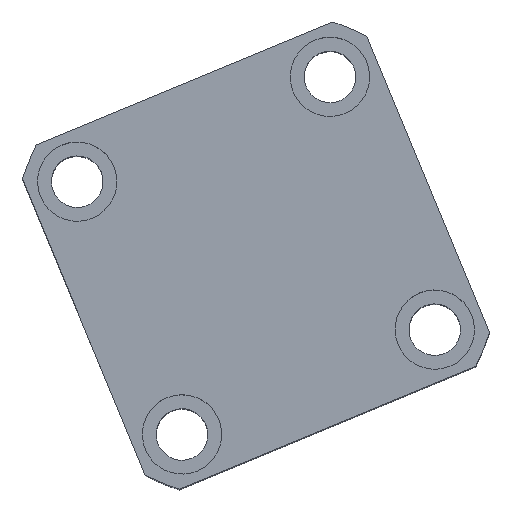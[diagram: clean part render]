
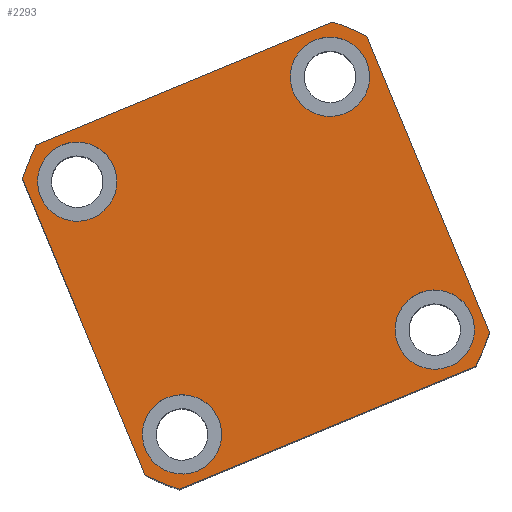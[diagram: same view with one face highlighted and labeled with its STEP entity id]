
A CAD part, top view. The second image highlights one B-rep face of the part: STEP entity #2293.
In plain terms, the highlighted planar face has unit normal (0, 0, 1) as drawn and (0, 0, -1) by its records, which use the part's own axes.
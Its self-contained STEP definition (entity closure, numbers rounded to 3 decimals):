
#113 = CARTESIAN_POINT ( 'NONE',  ( 44.5, 34.5, 0. ) ) ;
#301 = LINE ( 'NONE', #16303, #4902 ) ;
#447 = CARTESIAN_POINT ( 'NONE',  ( -34.5, -34.5, 0. ) ) ;
#539 = DIRECTION ( 'NONE',  ( 0., 0., -1. ) ) ;
#902 = EDGE_CURVE ( 'NONE', #2542, #20532, #1407, .T. ) ;
#1189 = VERTEX_POINT ( 'NONE', #8281 ) ;
#1271 = CARTESIAN_POINT ( 'NONE',  ( -47., 47., 0. ) ) ;
#1336 = ORIENTED_EDGE ( 'NONE', *, *, #17917, .F. ) ;
#1407 = LINE ( 'NONE', #6854, #19219 ) ;
#1649 = CARTESIAN_POINT ( 'NONE',  ( -44.5, 34.5, 0. ) ) ;
#1686 = CIRCLE ( 'NONE', #2950, 62. ) ;
#1765 = DIRECTION ( 'NONE',  ( 0., 0., 1. ) ) ;
#1785 = CARTESIAN_POINT ( 'NONE',  ( 34.5, -34.5, 0. ) ) ;
#1861 = CARTESIAN_POINT ( 'NONE',  ( -47., 40.435, 0. ) ) ;
#2091 = AXIS2_PLACEMENT_3D ( 'NONE', #4759, #16811, #6486 ) ;
#2200 = VERTEX_POINT ( 'NONE', #21178 ) ;
#2204 = DIRECTION ( 'NONE',  ( -1., 0., 0. ) ) ;
#2293 = ADVANCED_FACE ( 'NONE', ( #4619, #8648, #18939, #13765, #4081 ), #6043, .F. ) ;
#2350 = CARTESIAN_POINT ( 'NONE',  ( 47., 40.435, 0. ) ) ;
#2542 = VERTEX_POINT ( 'NONE', #18503 ) ;
#2950 = AXIS2_PLACEMENT_3D ( 'NONE', #12080, #1765, #13802 ) ;
#3089 = AXIS2_PLACEMENT_3D ( 'NONE', #10858, #539, #12616 ) ;
#3226 = ORIENTED_EDGE ( 'NONE', *, *, #10527, .F. ) ;
#3428 = AXIS2_PLACEMENT_3D ( 'NONE', #1785, #13826, #3520 ) ;
#3520 = DIRECTION ( 'NONE',  ( -1., 0., 0. ) ) ;
#3810 = CARTESIAN_POINT ( 'NONE',  ( -44.5, -34.5, 0. ) ) ;
#4081 = FACE_OUTER_BOUND ( 'NONE', #15465, .T. ) ;
#4295 = VERTEX_POINT ( 'NONE', #3810 ) ;
#4326 = DIRECTION ( 'NONE',  ( 0., 0., -1. ) ) ;
#4575 = AXIS2_PLACEMENT_3D ( 'NONE', #17536, #7207, #19291 ) ;
#4619 = FACE_BOUND ( 'NONE', #20928, .T. ) ;
#4759 = CARTESIAN_POINT ( 'NONE',  ( 0., 0., 0. ) ) ;
#4814 = CARTESIAN_POINT ( 'NONE',  ( 34.5, -34.5, 0. ) ) ;
#4902 = VECTOR ( 'NONE', #11081, 1000. ) ;
#5196 = CARTESIAN_POINT ( 'NONE',  ( 44.5, -34.5, 0. ) ) ;
#5413 = VERTEX_POINT ( 'NONE', #9264 ) ;
#5560 = VERTEX_POINT ( 'NONE', #7928 ) ;
#5652 = DIRECTION ( 'NONE',  ( 0., 0., -1. ) ) ;
#5748 = CARTESIAN_POINT ( 'NONE',  ( 47., 47., 0. ) ) ;
#6043 = PLANE ( 'NONE',  #12599 ) ;
#6225 = EDGE_CURVE ( 'NONE', #16362, #20482, #8786, .T. ) ;
#6435 = CARTESIAN_POINT ( 'NONE',  ( 47., -40.435, 0. ) ) ;
#6472 = DIRECTION ( 'NONE',  ( 1., 0., 0. ) ) ;
#6486 = DIRECTION ( 'NONE',  ( 1., 0., 0. ) ) ;
#6522 = VECTOR ( 'NONE', #17828, 1000. ) ;
#6545 = DIRECTION ( 'NONE',  ( -1., 0., 0. ) ) ;
#6854 = CARTESIAN_POINT ( 'NONE',  ( -47., -47., 0. ) ) ;
#7064 = CIRCLE ( 'NONE', #3089, 10. ) ;
#7207 = DIRECTION ( 'NONE',  ( 0., 0., -1. ) ) ;
#7235 = VERTEX_POINT ( 'NONE', #1861 ) ;
#7256 = ORIENTED_EDGE ( 'NONE', *, *, #14863, .F. ) ;
#7477 = CIRCLE ( 'NONE', #18386, 10. ) ;
#7641 = EDGE_CURVE ( 'NONE', #5413, #4295, #10153, .T. ) ;
#7668 = VECTOR ( 'NONE', #13245, 1000. ) ;
#7703 = EDGE_CURVE ( 'NONE', #4295, #5413, #9616, .T. ) ;
#7726 = CARTESIAN_POINT ( 'NONE',  ( 24.5, -34.5, 0. ) ) ;
#7786 = CARTESIAN_POINT ( 'NONE',  ( 0., 0., 0. ) ) ;
#7928 = CARTESIAN_POINT ( 'NONE',  ( -24.5, 34.5, 0. ) ) ;
#8228 = EDGE_CURVE ( 'NONE', #18407, #17919, #7477, .T. ) ;
#8281 = CARTESIAN_POINT ( 'NONE',  ( 24.5, 34.5, 0. ) ) ;
#8414 = VERTEX_POINT ( 'NONE', #1649 ) ;
#8492 = DIRECTION ( 'NONE',  ( 0., 0., 1. ) ) ;
#8648 = FACE_BOUND ( 'NONE', #12205, .T. ) ;
#8705 = DIRECTION ( 'NONE',  ( 0., 0., -1. ) ) ;
#8786 = CIRCLE ( 'NONE', #18523, 62. ) ;
#8859 = ORIENTED_EDGE ( 'NONE', *, *, #20852, .F. ) ;
#8863 = VERTEX_POINT ( 'NONE', #16104 ) ;
#9264 = CARTESIAN_POINT ( 'NONE',  ( -24.5, -34.5, 0. ) ) ;
#9493 = DIRECTION ( 'NONE',  ( 1., 0., 0. ) ) ;
#9502 = DIRECTION ( 'NONE',  ( 1., 0., 0. ) ) ;
#9616 = CIRCLE ( 'NONE', #13718, 10. ) ;
#10153 = CIRCLE ( 'NONE', #11414, 10. ) ;
#10212 = AXIS2_PLACEMENT_3D ( 'NONE', #14625, #4326, #16372 ) ;
#10527 = EDGE_CURVE ( 'NONE', #1189, #10547, #10713, .T. ) ;
#10547 = VERTEX_POINT ( 'NONE', #113 ) ;
#10713 = CIRCLE ( 'NONE', #21239, 10. ) ;
#10732 = ORIENTED_EDGE ( 'NONE', *, *, #13093, .F. ) ;
#10858 = CARTESIAN_POINT ( 'NONE',  ( 34.5, 34.5, 0. ) ) ;
#11081 = DIRECTION ( 'NONE',  ( -1., 0., 0. ) ) ;
#11097 = LINE ( 'NONE', #5748, #6522 ) ;
#11414 = AXIS2_PLACEMENT_3D ( 'NONE', #447, #12520, #2204 ) ;
#11647 = EDGE_CURVE ( 'NONE', #2200, #7235, #14253, .T. ) ;
#12080 = CARTESIAN_POINT ( 'NONE',  ( 0., 0., 0. ) ) ;
#12205 = EDGE_LOOP ( 'NONE', ( #15875, #20509 ) ) ;
#12435 = CARTESIAN_POINT ( 'NONE',  ( 40.435, -47., 0. ) ) ;
#12520 = DIRECTION ( 'NONE',  ( 0., 0., -1. ) ) ;
#12599 = AXIS2_PLACEMENT_3D ( 'NONE', #14549, #19882, #9502 ) ;
#12616 = DIRECTION ( 'NONE',  ( -1., 0., 0. ) ) ;
#12921 = ORIENTED_EDGE ( 'NONE', *, *, #17725, .F. ) ;
#13093 = EDGE_CURVE ( 'NONE', #8414, #5560, #19951, .T. ) ;
#13245 = DIRECTION ( 'NONE',  ( 0., -1., 0. ) ) ;
#13718 = AXIS2_PLACEMENT_3D ( 'NONE', #15976, #5652, #17732 ) ;
#13765 = FACE_BOUND ( 'NONE', #15474, .T. ) ;
#13802 = DIRECTION ( 'NONE',  ( 1., 0., 0. ) ) ;
#13826 = DIRECTION ( 'NONE',  ( 0., 0., -1. ) ) ;
#13986 = ORIENTED_EDGE ( 'NONE', *, *, #19479, .F. ) ;
#14253 = CIRCLE ( 'NONE', #15693, 62. ) ;
#14529 = ORIENTED_EDGE ( 'NONE', *, *, #11647, .F. ) ;
#14549 = CARTESIAN_POINT ( 'NONE',  ( 0., 0., 0. ) ) ;
#14616 = EDGE_CURVE ( 'NONE', #7235, #8863, #16812, .T. ) ;
#14625 = CARTESIAN_POINT ( 'NONE',  ( -34.5, 34.5, 0. ) ) ;
#14863 = EDGE_CURVE ( 'NONE', #17919, #18407, #18733, .T. ) ;
#15033 = EDGE_CURVE ( 'NONE', #5560, #8414, #18194, .T. ) ;
#15465 = EDGE_LOOP ( 'NONE', ( #17506, #22113, #8859, #18072, #13986, #18616, #14529, #1336 ) ) ;
#15474 = EDGE_LOOP ( 'NONE', ( #3226, #12921 ) ) ;
#15693 = AXIS2_PLACEMENT_3D ( 'NONE', #7786, #19876, #9493 ) ;
#15875 = ORIENTED_EDGE ( 'NONE', *, *, #7703, .F. ) ;
#15976 = CARTESIAN_POINT ( 'NONE',  ( -34.5, -34.5, 0. ) ) ;
#16104 = CARTESIAN_POINT ( 'NONE',  ( -47., -40.435, 0. ) ) ;
#16303 = CARTESIAN_POINT ( 'NONE',  ( -47., 47., 0. ) ) ;
#16362 = VERTEX_POINT ( 'NONE', #2350 ) ;
#16372 = DIRECTION ( 'NONE',  ( -1., 0., 0. ) ) ;
#16426 = ORIENTED_EDGE ( 'NONE', *, *, #8228, .F. ) ;
#16811 = DIRECTION ( 'NONE',  ( 0., 0., 1. ) ) ;
#16812 = LINE ( 'NONE', #1271, #7668 ) ;
#16866 = DIRECTION ( 'NONE',  ( 0., 0., -1. ) ) ;
#17380 = CIRCLE ( 'NONE', #2091, 62. ) ;
#17506 = ORIENTED_EDGE ( 'NONE', *, *, #6225, .F. ) ;
#17536 = CARTESIAN_POINT ( 'NONE',  ( -34.5, 34.5, 0. ) ) ;
#17725 = EDGE_CURVE ( 'NONE', #10547, #1189, #7064, .T. ) ;
#17732 = DIRECTION ( 'NONE',  ( -1., 0., 0. ) ) ;
#17745 = EDGE_CURVE ( 'NONE', #19334, #16362, #11097, .T. ) ;
#17828 = DIRECTION ( 'NONE',  ( 0., 1., 0. ) ) ;
#17917 = EDGE_CURVE ( 'NONE', #20482, #2200, #301, .T. ) ;
#17919 = VERTEX_POINT ( 'NONE', #7726 ) ;
#18072 = ORIENTED_EDGE ( 'NONE', *, *, #902, .F. ) ;
#18194 = CIRCLE ( 'NONE', #4575, 10. ) ;
#18386 = AXIS2_PLACEMENT_3D ( 'NONE', #4814, #16866, #6545 ) ;
#18407 = VERTEX_POINT ( 'NONE', #5196 ) ;
#18503 = CARTESIAN_POINT ( 'NONE',  ( -40.435, -47., 0. ) ) ;
#18523 = AXIS2_PLACEMENT_3D ( 'NONE', #18842, #8492, #20586 ) ;
#18616 = ORIENTED_EDGE ( 'NONE', *, *, #14616, .F. ) ;
#18733 = CIRCLE ( 'NONE', #3428, 10. ) ;
#18842 = CARTESIAN_POINT ( 'NONE',  ( 0., 0., 0. ) ) ;
#18939 = FACE_BOUND ( 'NONE', #19012, .T. ) ;
#19012 = EDGE_LOOP ( 'NONE', ( #7256, #16426 ) ) ;
#19066 = CARTESIAN_POINT ( 'NONE',  ( 34.5, 34.5, 0. ) ) ;
#19219 = VECTOR ( 'NONE', #6472, 1000. ) ;
#19291 = DIRECTION ( 'NONE',  ( -1., 0., 0. ) ) ;
#19320 = CARTESIAN_POINT ( 'NONE',  ( 40.435, 47., 0. ) ) ;
#19334 = VERTEX_POINT ( 'NONE', #6435 ) ;
#19479 = EDGE_CURVE ( 'NONE', #8863, #2542, #1686, .T. ) ;
#19876 = DIRECTION ( 'NONE',  ( 0., 0., 1. ) ) ;
#19882 = DIRECTION ( 'NONE',  ( 0., 0., 1. ) ) ;
#19951 = CIRCLE ( 'NONE', #10212, 10. ) ;
#19972 = ORIENTED_EDGE ( 'NONE', *, *, #15033, .F. ) ;
#20482 = VERTEX_POINT ( 'NONE', #19320 ) ;
#20509 = ORIENTED_EDGE ( 'NONE', *, *, #7641, .F. ) ;
#20532 = VERTEX_POINT ( 'NONE', #12435 ) ;
#20586 = DIRECTION ( 'NONE',  ( 1., 0., 0. ) ) ;
#20804 = DIRECTION ( 'NONE',  ( -1., 0., 0. ) ) ;
#20852 = EDGE_CURVE ( 'NONE', #20532, #19334, #17380, .T. ) ;
#20928 = EDGE_LOOP ( 'NONE', ( #10732, #19972 ) ) ;
#21178 = CARTESIAN_POINT ( 'NONE',  ( -40.435, 47., 0. ) ) ;
#21239 = AXIS2_PLACEMENT_3D ( 'NONE', #19066, #8705, #20804 ) ;
#22113 = ORIENTED_EDGE ( 'NONE', *, *, #17745, .F. ) ;
